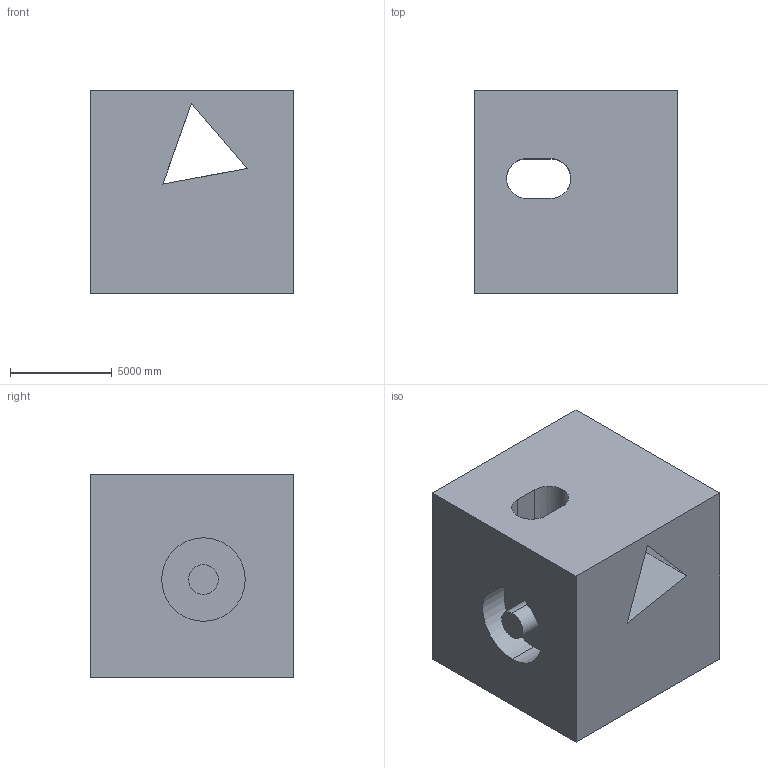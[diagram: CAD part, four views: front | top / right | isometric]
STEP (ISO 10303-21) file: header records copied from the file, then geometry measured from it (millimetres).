
FILE_DESCRIPTION (( 'STEP AP203' ), '1' );
FILE_NAME ('1225.STEP', '2022-08-18T13:16:25', ( 'user' ), ( '' ), 'SwSTEP 2.0', 'SolidWorks 2021', '' );
FILE_SCHEMA (( 'CONFIG_CONTROL_DESIGN' ));
Length unit declared in the file: centimetre
Products named in the file (1): 1225
Bounding box: 10000 x 10000 x 10000 mm (x, y, z)
Volume: 854668015403 mm3; surface area: 797543984.3 mm2
Topology: 1 solids, 1 shells, 21 faces, 57 edges, 38 vertices
Faces by surface type: plane 13, cylinder 8
Entity records: 754 total; most frequent: CARTESIAN_POINT 123, ORIENTED_EDGE 114, DIRECTION 113, EDGE_CURVE 57, VECTOR 41, LINE 41, VERTEX_POINT 38, AXIS2_PLACEMENT_3D 36
